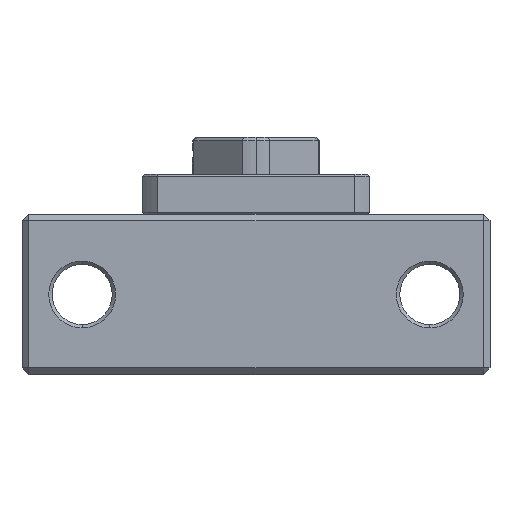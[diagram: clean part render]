
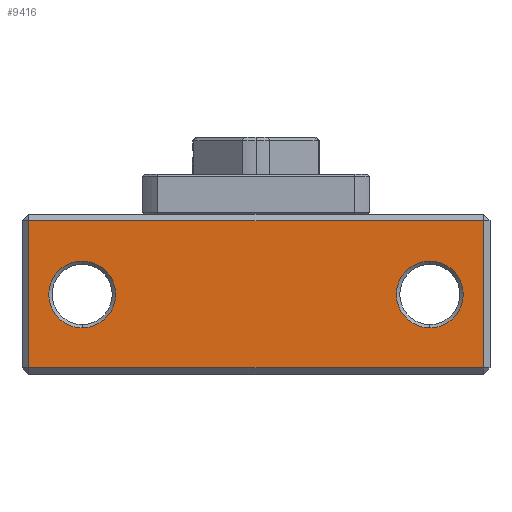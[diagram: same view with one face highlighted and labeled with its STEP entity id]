
A CAD part, front view. The second image highlights one B-rep face of the part: STEP entity #9416.
In plain terms, the highlighted planar face has unit normal (0, -1, 0).
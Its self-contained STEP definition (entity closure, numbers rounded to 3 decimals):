
#4596 = DIRECTION ( 'NONE',  ( -1., 0., 0. ) ) ;
#4597 = DIRECTION ( 'NONE',  ( 0., 1., 0. ) ) ;
#4598 = CARTESIAN_POINT ( 'NONE',  ( -26., 0., 0. ) ) ;
#4599 = AXIS2_PLACEMENT_3D ( 'NONE', #4598, #4597, #4596 ) ;
#4600 = CIRCLE ( 'NONE', #4599, 5. ) ;
#4601 = CARTESIAN_POINT ( 'NONE',  ( -26., 0., -5. ) ) ;
#4723 = CARTESIAN_POINT ( 'NONE',  ( 26., 0., -5. ) ) ;
#4724 = DIRECTION ( 'NONE',  ( -1., 0., 0. ) ) ;
#4725 = DIRECTION ( 'NONE',  ( 0., 1., 0. ) ) ;
#4726 = CARTESIAN_POINT ( 'NONE',  ( 26., 0., 0. ) ) ;
#4727 = AXIS2_PLACEMENT_3D ( 'NONE', #4726, #4725, #4724 ) ;
#4728 = CIRCLE ( 'NONE', #4727, 5. ) ;
#4813 = CARTESIAN_POINT ( 'NONE',  ( 26., 0., 5. ) ) ;
#5085 = DIRECTION ( 'NONE',  ( -1., 0., 0. ) ) ;
#5086 = VECTOR ( 'NONE', #5085, 1000. ) ;
#5087 = CARTESIAN_POINT ( 'NONE',  ( -35., 0., 11. ) ) ;
#5088 = LINE ( 'NONE', #5087, #5086 ) ;
#5089 = CARTESIAN_POINT ( 'NONE',  ( 34., 0., 11. ) ) ;
#5090 = DIRECTION ( 'NONE',  ( 0., 0., 1. ) ) ;
#5091 = VECTOR ( 'NONE', #5090, 1000. ) ;
#5092 = CARTESIAN_POINT ( 'NONE',  ( 34., 0., 12. ) ) ;
#5093 = LINE ( 'NONE', #5092, #5091 ) ;
#5094 = CARTESIAN_POINT ( 'NONE',  ( 34., 0., -11. ) ) ;
#5120 = DIRECTION ( 'NONE',  ( 1., 0., 0. ) ) ;
#5121 = VECTOR ( 'NONE', #5120, 1000. ) ;
#5122 = CARTESIAN_POINT ( 'NONE',  ( -35., 0., -11. ) ) ;
#5123 = LINE ( 'NONE', #5122, #5121 ) ;
#5124 = CARTESIAN_POINT ( 'NONE',  ( -34., 0., -11. ) ) ;
#5125 = CARTESIAN_POINT ( 'NONE',  ( -34., 0., 11. ) ) ;
#5126 = DIRECTION ( 'NONE',  ( 0., 0., -1. ) ) ;
#5127 = VECTOR ( 'NONE', #5126, 1000. ) ;
#5128 = CARTESIAN_POINT ( 'NONE',  ( -34., 0., 12. ) ) ;
#5129 = LINE ( 'NONE', #5128, #5127 ) ;
#5153 = DIRECTION ( 'NONE',  ( -1., 0., 0. ) ) ;
#5154 = DIRECTION ( 'NONE',  ( 0., 1., 0. ) ) ;
#5155 = CARTESIAN_POINT ( 'NONE',  ( -26., 0., 0. ) ) ;
#5156 = AXIS2_PLACEMENT_3D ( 'NONE', #5155, #5154, #5153 ) ;
#5157 = CIRCLE ( 'NONE', #5156, 5. ) ;
#5167 = DIRECTION ( 'NONE',  ( -1., 0., 0. ) ) ;
#5168 = DIRECTION ( 'NONE',  ( 0., 1., 0. ) ) ;
#5169 = CARTESIAN_POINT ( 'NONE',  ( 26., 0., 0. ) ) ;
#5170 = AXIS2_PLACEMENT_3D ( 'NONE', #5169, #5168, #5167 ) ;
#5171 = CIRCLE ( 'NONE', #5170, 5. ) ;
#5227 = DIRECTION ( 'NONE',  ( -1., 0., 0. ) ) ;
#5228 = DIRECTION ( 'NONE',  ( 0., 1., 0. ) ) ;
#5229 = AXIS2_PLACEMENT_3D ( 'NONE', #5231, #5228, #5227 ) ;
#5231 = CARTESIAN_POINT ( 'NONE',  ( -35., 0., 12. ) ) ;
#5232 = PLANE ( 'NONE',  #5229 ) ;
#5233 = FACE_OUTER_BOUND ( 'NONE', #9381, .T. ) ;
#5234 = FACE_BOUND ( 'NONE', #9304, .T. ) ;
#5235 = FACE_BOUND ( 'NONE', #9417, .T. ) ;
#6938 = CARTESIAN_POINT ( 'NONE',  ( -26., 0., 5. ) ) ;
#8416 = VERTEX_POINT ( 'NONE', #6938 ) ;
#9136 = VERTEX_POINT ( 'NONE', #4601 ) ;
#9138 = EDGE_CURVE ( 'NONE', #9136, #8416, #4600, .T. ) ;
#9202 = EDGE_CURVE ( 'NONE', #9203, #9218, #4728, .T. ) ;
#9203 = VERTEX_POINT ( 'NONE', #4723 ) ;
#9218 = VERTEX_POINT ( 'NONE', #4813 ) ;
#9304 = EDGE_LOOP ( 'NONE', ( #9378, #9379 ) ) ;
#9348 = VERTEX_POINT ( 'NONE', #5094 ) ;
#9349 = ORIENTED_EDGE ( 'NONE', *, *, #9350, .T. ) ;
#9350 = EDGE_CURVE ( 'NONE', #9348, #9351, #5093, .T. ) ;
#9351 = VERTEX_POINT ( 'NONE', #5089 ) ;
#9352 = ORIENTED_EDGE ( 'NONE', *, *, #9353, .T. ) ;
#9353 = EDGE_CURVE ( 'NONE', #9351, #9365, #5088, .T. ) ;
#9363 = ORIENTED_EDGE ( 'NONE', *, *, #9364, .T. ) ;
#9364 = EDGE_CURVE ( 'NONE', #9365, #9366, #5129, .T. ) ;
#9365 = VERTEX_POINT ( 'NONE', #5125 ) ;
#9366 = VERTEX_POINT ( 'NONE', #5124 ) ;
#9367 = ORIENTED_EDGE ( 'NONE', *, *, #9368, .T. ) ;
#9368 = EDGE_CURVE ( 'NONE', #9366, #9348, #5123, .T. ) ;
#9378 = ORIENTED_EDGE ( 'NONE', *, *, #9202, .T. ) ;
#9379 = ORIENTED_EDGE ( 'NONE', *, *, #9380, .T. ) ;
#9380 = EDGE_CURVE ( 'NONE', #9218, #9203, #5171, .T. ) ;
#9381 = EDGE_LOOP ( 'NONE', ( #9363, #9367, #9349, #9352 ) ) ;
#9386 = ORIENTED_EDGE ( 'NONE', *, *, #9138, .T. ) ;
#9387 = ORIENTED_EDGE ( 'NONE', *, *, #9388, .T. ) ;
#9388 = EDGE_CURVE ( 'NONE', #8416, #9136, #5157, .T. ) ;
#9416 = ADVANCED_FACE ( 'NONE', ( #5235, #5234, #5233 ), #5232, .F. ) ;
#9417 = EDGE_LOOP ( 'NONE', ( #9386, #9387 ) ) ;
